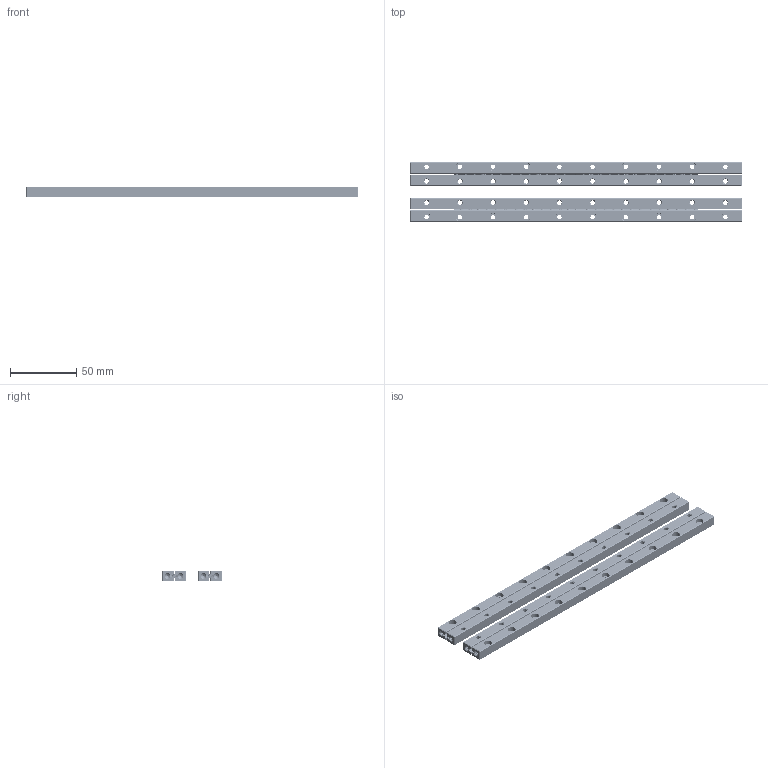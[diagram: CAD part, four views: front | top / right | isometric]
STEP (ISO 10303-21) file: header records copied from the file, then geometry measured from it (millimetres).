
FILE_DESCRIPTION(/* description */ (''),/* implementation_level */ '2;1');
FILE_NAME(/* name */ 'Set RSDE-3250x52KRE-ACC.stp',/* time_stamp */ '2018-12-19T13:28:23+01:00',/* author */ (''),/* organization */ (''),/* preprocessor_version */ 'ST-DEVELOPER v16.7',/* originating_system */ 'SIEMENS PLM Software NX 12.0',/* authorisation */ '');
FILE_SCHEMA (('AUTOMOTIVE_DESIGN { 1 0 10303 214 3 1 1 1 }'));
Products named in the file (1): rhn11EC67B6z27k
Bounding box: 250 x 45 x 8 mm (x, y, z)
Volume: 60934.4 mm3; surface area: 51853.4 mm2
Topology: 128 solids, 128 shells, 6360 faces, 18242 edges, 12030 vertices
Faces by surface type: plane 2908, cylinder 2212, torus 1056, cone 112, extrusion 72
Full cylindrical faces by diameter (mm): 0.45 x448, 1 x8, 2 x104, 2.459 x8, 3 x104, 3.2 x8, 3.3 x40, 6 x40
Entity records: 210309 total; most frequent: CARTESIAN_POINT 43397, DIRECTION 35394, ORIENTED_EDGE 32968, EDGE_CURVE 16484, AXIS2_PLACEMENT_3D 13141, VERTEX_POINT 11356, VECTOR 9112, LINE 9040
